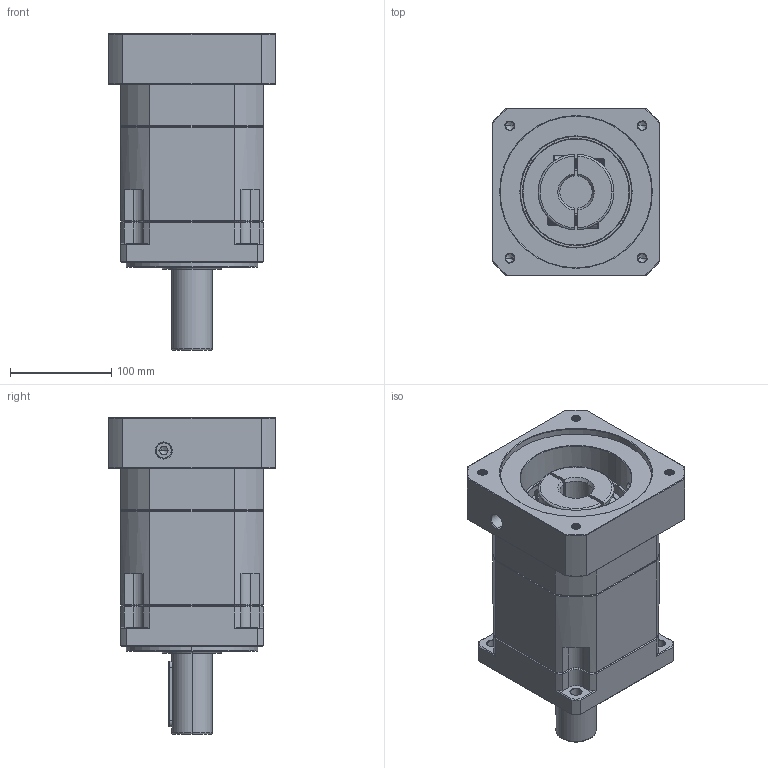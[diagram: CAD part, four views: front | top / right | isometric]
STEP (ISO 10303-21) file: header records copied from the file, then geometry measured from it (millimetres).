
FILE_DESCRIPTION (( 'STEP AP214' ), '1' );
FILE_NAME ('ZB142A-D40-L2-P2-32-150-185-M10.step', '2023-09-01T11:43:11', ( '' ), ( '' ), 'SwSTEP 2.0', 'SolidWorks 2016', '' );
FILE_SCHEMA (( 'AUTOMOTIVE_DESIGN' ));
Length unit declared in the file: millimetre
Products named in the file (1): ZB142A-D40-L2-P2-32-150-185-M10
Bounding box: 166 x 166 x 313.2 mm (x, y, z)
Volume: 4307035 mm3; surface area: 325059.4 mm2
Topology: 6 solids, 6 shells, 2320 faces, 6218 edges, 4002 vertices
Faces by surface type: plane 1103, cylinder 432, bspline 411, cone 352, torus 22
Entity records: 129452 total; most frequent: CARTESIAN_POINT 49233, ORIENTED_EDGE 12376, DIRECTION 9806, EDGE_CURVE 6188, VERTEX_POINT 4002, VECTOR 3906, LINE 3906, AXIS2_PLACEMENT_3D 2950
